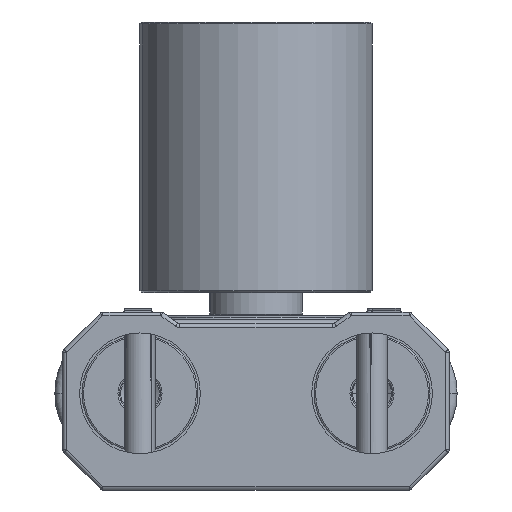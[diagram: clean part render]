
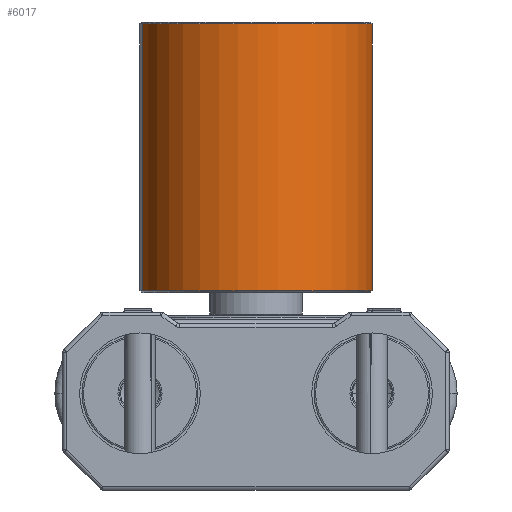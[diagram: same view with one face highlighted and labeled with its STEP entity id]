
A CAD part, front view. The second image highlights one B-rep face of the part: STEP entity #6017.
In plain terms, the highlighted cylindrical face has radius 15 mm (diameter 30 mm), a partial arc.
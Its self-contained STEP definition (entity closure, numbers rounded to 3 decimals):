
#293 = VERTEX_POINT ( 'NONE', #10633 ) ;
#333 = EDGE_CURVE ( 'NONE', #17680, #293, #26761, .T. ) ;
#1407 = EDGE_LOOP ( 'NONE', ( #12574, #5919, #18113, #27206 ) ) ;
#2862 = CIRCLE ( 'NONE', #8901, 15. ) ;
#4675 = EDGE_CURVE ( 'NONE', #17680, #21030, #2862, .T. ) ;
#4983 = AXIS2_PLACEMENT_3D ( 'NONE', #20045, #8205, #15403 ) ;
#5509 = EDGE_CURVE ( 'NONE', #20005, #293, #21125, .T. ) ;
#5546 = VECTOR ( 'NONE', #17498, 1000. ) ;
#5919 = ORIENTED_EDGE ( 'NONE', *, *, #12297, .T. ) ;
#6017 = ADVANCED_FACE ( 'NONE', ( #18572 ), #20376, .T. ) ;
#8205 = DIRECTION ( 'NONE',  ( 0., 1., 0. ) ) ;
#8901 = AXIS2_PLACEMENT_3D ( 'NONE', #25280, #20631, #25164 ) ;
#10633 = CARTESIAN_POINT ( 'NONE',  ( 0., -17.25, -15. ) ) ;
#12297 = EDGE_CURVE ( 'NONE', #21030, #20005, #29279, .T. ) ;
#12574 = ORIENTED_EDGE ( 'NONE', *, *, #4675, .T. ) ;
#12981 = CARTESIAN_POINT ( 'NONE',  ( 0., 17.5, -15. ) ) ;
#14859 = CARTESIAN_POINT ( 'NONE',  ( 0., 17.5, 0. ) ) ;
#15249 = CARTESIAN_POINT ( 'NONE',  ( 0., -17.25, 15. ) ) ;
#15326 = VECTOR ( 'NONE', #19350, 1000. ) ;
#15403 = DIRECTION ( 'NONE',  ( 0., 0., 1. ) ) ;
#17450 = DIRECTION ( 'NONE',  ( 0., -1., 0. ) ) ;
#17498 = DIRECTION ( 'NONE',  ( 0., -1., 0. ) ) ;
#17613 = CARTESIAN_POINT ( 'NONE',  ( 0., 17.25, -15. ) ) ;
#17680 = VERTEX_POINT ( 'NONE', #17613 ) ;
#18113 = ORIENTED_EDGE ( 'NONE', *, *, #5509, .T. ) ;
#18340 = AXIS2_PLACEMENT_3D ( 'NONE', #14859, #17450, #24511 ) ;
#18572 = FACE_OUTER_BOUND ( 'NONE', #1407, .T. ) ;
#19350 = DIRECTION ( 'NONE',  ( 0., -1., 0. ) ) ;
#19463 = CARTESIAN_POINT ( 'NONE',  ( 0., 17.5, 15. ) ) ;
#20005 = VERTEX_POINT ( 'NONE', #15249 ) ;
#20045 = CARTESIAN_POINT ( 'NONE',  ( 0., -17.25, 0. ) ) ;
#20376 = CYLINDRICAL_SURFACE ( 'NONE', #18340, 15. ) ;
#20631 = DIRECTION ( 'NONE',  ( 0., -1., 0. ) ) ;
#21030 = VERTEX_POINT ( 'NONE', #22650 ) ;
#21125 = CIRCLE ( 'NONE', #4983, 15. ) ;
#22650 = CARTESIAN_POINT ( 'NONE',  ( 0., 17.25, 15. ) ) ;
#24511 = DIRECTION ( 'NONE',  ( 0., 0., -1. ) ) ;
#25164 = DIRECTION ( 'NONE',  ( 0., 0., 1. ) ) ;
#25280 = CARTESIAN_POINT ( 'NONE',  ( 0., 17.25, 0. ) ) ;
#26761 = LINE ( 'NONE', #12981, #5546 ) ;
#27206 = ORIENTED_EDGE ( 'NONE', *, *, #333, .F. ) ;
#29279 = LINE ( 'NONE', #19463, #15326 ) ;
